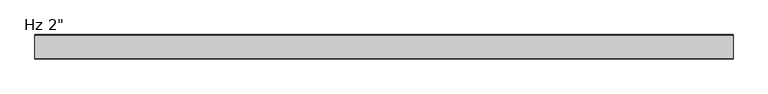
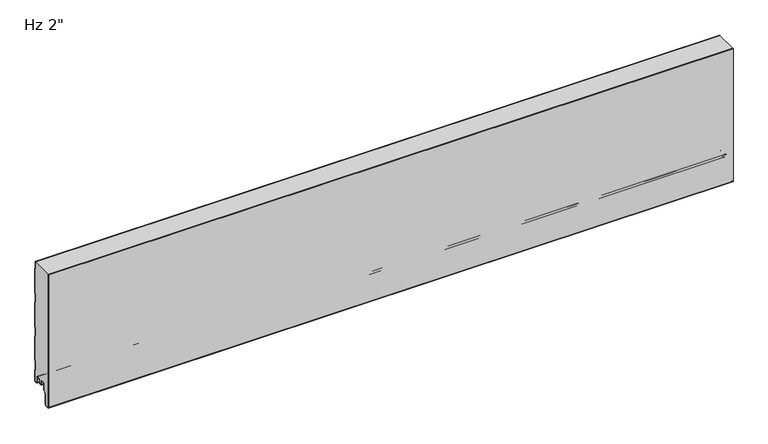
"""IFC4 building model written with IfcOpenShell, lengths in millimetres: plate geometry."""

from ifc_helpers import new_model, si_unit, point, frame, frame_2d, origin, place, context, project, spatial, polyline, circle_curve, trimmed, segment, composite_curve, outline, extrude, source, transform, mapped, element, save
from ifc_brep_helpers import plane_surface, cylinder_surface, revolved_surface, advanced_brep


def plate_f772c91a(model_context):
    return source(origin(), model_context, "Body", "SolidModel", [
        advanced_brep(
        [(-730.0, -22.470875, 1.0316999), (-730.0, -21.3014003, 2.2328239), (-730.0, -21.3014003, 5.9912173), (-730.0, -22.6998791, 5.9912173), (-730.0, -22.6998791, 8.6903283), (-730.0, -26.0498744, 12.0403236), (-730.0, -30.4498656, 12.0403236), (-730.0, -33.7998609, 8.6903283), (-730.0, -33.7998609, -3.1205608), (-730.0, -34.2977778, -4.3226385), (-730.0, -39.7998489, -9.8247096), (-730.0, -39.7998489, -31.9198392), (-730.0, -42.0184509, -34.5765709), (-730.0, -47.0002718, -35.0125699), (-730.0, -49.7945967, -32.4521176), (-730.0, -49.8, 266.4), (-730.0, -2.206575, 266.4), (-730.0, -2.206575, 251.0192115), (-730.0, -1.0063443, 249.6335785), (-730.0, -1.0063443, 195.5801631), (-730.0, -2.206575, 194.1945302), (-730.0, -2.206575, 174.8193639), (-730.0, -1.0063443, 173.4337309), (-730.0, -1.0063443, 119.3803155), (-730.0, -2.206575, 117.9946826), (-730.0, -2.206575, 98.6195163), (-730.0, -1.0063443, 97.2338833), (-730.0, -1.0063443, 43.1804679), (-730.0, -2.206575, 41.794835), (-730.0, -2.206575, 22.4196687), (-730.0, -1.0063359, 21.034026), (-730.0, -1.0063359, -3.4662506), (-730.0, -5.2378832, -3.4662506), (-730.0, -7.0078774, -1.6962564), (-730.0, -7.0078774, 8.7237222), (-730.0, -10.3078733, 12.023718), (-730.0, -14.7078645, 12.023718), (-730.0, -18.0078602, 8.7237223), (-730.0, -18.0078602, 6.0315125), (-730.0, -19.0078547, 6.0315125), (-730.0, -19.0078547, 2.0313089), (-730.0, -18.0078635, 1.0313117), (-730.0, -19.0391752, 0.0), (-730.0, -21.4391751, 0.0), (730.0, -22.470875, 1.0316999), (730.0, -21.4391751, 0.0), (730.0, -19.0391752, 0.0), (730.0, -18.0078635, 1.0313117), (730.0, -19.0078547, 2.0313089), (730.0, -19.0078547, 6.0315125), (730.0, -18.0078602, 6.0315125), (730.0, -18.0078602, 8.7237223), (730.0, -14.7078645, 12.023718), (730.0, -10.3078733, 12.023718), (730.0, -7.0078774, 8.7237222), (730.0, -7.0078774, -1.6962564), (730.0, -5.2378832, -3.4662506), (730.0, -1.0063359, -3.4662506), (730.0, -1.0063359, 21.034026), (730.0, -2.206575, 22.4196687), (730.0, -2.206575, 41.794835), (730.0, -1.0063443, 43.1804679), (730.0, -1.0063443, 97.2338833), (730.0, -2.206575, 98.6195163), (730.0, -2.206575, 117.9946826), (730.0, -1.0063443, 119.3803155), (730.0, -1.0063443, 173.4337309), (730.0, -2.206575, 174.8193639), (730.0, -2.206575, 194.1945302), (730.0, -1.0063443, 195.5801631), (730.0, -1.0063443, 249.6335785), (730.0, -2.206575, 251.0192115), (730.0, -2.206575, 266.4), (730.0, -49.8, 266.4), (730.0, -49.8, -32.4521176), (730.0, -47.0002718, -35.0125699), (730.0, -42.0184509, -34.5765709), (730.0, -39.7998489, -31.9198392), (730.0, -39.7998489, -9.8247096), (730.0, -34.2977778, -4.3226385), (730.0, -33.7998609, -3.1205608), (730.0, -33.7998609, 8.6903283), (730.0, -30.4498656, 12.0403236), (730.0, -26.0498744, 12.0403236), (730.0, -22.6998791, 8.6903283), (730.0, -22.6998791, 5.9912173), (730.0, -21.3014003, 5.9912173), (730.0, -21.3014003, 2.2328239)],
        [
            (0, 1, circle_curve(frame((-730.0, -22.5013969, 2.2313092), z_axis=(1.0, 0.0, 0.0), x_axis=(0.0, 0.0, -1.0)), 1.1999976)),
            (1, 2),
            (2, 3),
            (3, 4),
            (4, 5, circle_curve(frame((-730.0, -26.0498744, 8.6903283), z_axis=(1.0, 0.0, 0.0), x_axis=(0.0, 0.0, -1.0)), 3.3499953)),
            (5, 6),
            (6, 7, circle_curve(frame((-730.0, -30.4498656, 8.6903283), z_axis=(1.0, 0.0, 0.0), x_axis=(0.0, 0.0, -1.0)), 3.3499953)),
            (7, 8),
            (8, 9, circle_curve(frame((-730.0, -35.4998555, -3.1205608), z_axis=(-1.0, 0.0, 0.0), x_axis=(0.0, 0.0, -1.0)), 1.6999946)),
            (9, 10),
            (10, 11),
            (11, 12, circle_curve(frame((-730.0, -42.4998415, -31.9198392), z_axis=(-1.0, 0.0, 0.0), x_axis=(0.0, 0.0, -1.0)), 2.6999926)),
            (12, 13),
            (13, 14, circle_curve(frame((-730.0, -47.2243575, -32.4521176), z_axis=(-1.0, 0.0, 0.0), x_axis=(0.0, 0.0, -1.0)), 2.5702393)),
            (14, 15),
            (15, 16),
            (16, 17),
            (17, 18),
            (18, 19),
            (19, 20),
            (20, 21),
            (21, 22),
            (22, 23),
            (23, 24),
            (24, 25),
            (25, 26),
            (26, 27),
            (27, 28),
            (28, 29),
            (29, 30),
            (30, 31),
            (31, 32),
            (32, 33, circle_curve(frame((-730.0, -5.2378832, -1.6962564), z_axis=(-1.0, 0.0, 0.0), x_axis=(0.0, 0.0, -1.0)), 1.7699942)),
            (33, 34),
            (34, 35, circle_curve(frame((-730.0, -10.3078733, 8.7237222), z_axis=(1.0, 0.0, 0.0), x_axis=(0.0, 0.0, -1.0)), 3.2999959)),
            (35, 36),
            (36, 37, circle_curve(frame((-730.0, -14.7078645, 8.7237223), z_axis=(1.0, 0.0, 0.0), x_axis=(0.0, 0.0, -1.0)), 3.2999957)),
            (37, 38),
            (38, 39),
            (39, 40),
            (40, 41, circle_curve(frame((-730.0, -18.0078576, 2.0313089), z_axis=(1.0, 0.0, 0.0), x_axis=(0.0, 0.0, -1.0)), 0.9999972)),
            (41, 42),
            (42, 43),
            (43, 0),
            (44, 45),
            (45, 46),
            (46, 47),
            (47, 48, circle_curve(frame((730.0, -18.0078576, 2.0313089), z_axis=(-1.0, 0.0, 0.0), x_axis=(0.0, 0.0, -1.0)), 0.9999972)),
            (48, 49),
            (49, 50),
            (50, 51),
            (51, 52, circle_curve(frame((730.0, -14.7078645, 8.7237223), z_axis=(-1.0, 0.0, 0.0), x_axis=(0.0, 0.0, -1.0)), 3.2999957)),
            (52, 53),
            (53, 54, circle_curve(frame((730.0, -10.3078733, 8.7237222), z_axis=(-1.0, 0.0, 0.0), x_axis=(0.0, 0.0, -1.0)), 3.2999959)),
            (54, 55),
            (55, 56, circle_curve(frame((730.0, -5.2378832, -1.6962564), z_axis=(1.0, 0.0, 0.0), x_axis=(0.0, 0.0, -1.0)), 1.7699942)),
            (56, 57),
            (57, 58),
            (58, 59),
            (59, 60),
            (60, 61),
            (61, 62),
            (62, 63),
            (63, 64),
            (64, 65),
            (65, 66),
            (66, 67),
            (67, 68),
            (68, 69),
            (69, 70),
            (70, 71),
            (71, 72),
            (72, 73),
            (73, 74),
            (74, 75, circle_curve(frame((730.0, -47.2243575, -32.4521176), z_axis=(1.0, 0.0, 0.0), x_axis=(0.0, 0.0, -1.0)), 2.5702393)),
            (75, 76),
            (76, 77, circle_curve(frame((730.0, -42.4998415, -31.9198392), z_axis=(1.0, 0.0, 0.0), x_axis=(0.0, 0.0, -1.0)), 2.6999926)),
            (77, 78),
            (78, 79),
            (79, 80, circle_curve(frame((730.0, -35.4998555, -3.1205608), z_axis=(1.0, 0.0, 0.0), x_axis=(0.0, 0.0, -1.0)), 1.6999946)),
            (80, 81),
            (81, 82, circle_curve(frame((730.0, -30.4498656, 8.6903283), z_axis=(-1.0, 0.0, 0.0), x_axis=(0.0, 0.0, -1.0)), 3.3499953)),
            (82, 83),
            (83, 84, circle_curve(frame((730.0, -26.0498744, 8.6903283), z_axis=(-1.0, 0.0, 0.0), x_axis=(0.0, 0.0, -1.0)), 3.3499953)),
            (84, 85),
            (85, 86),
            (86, 87),
            (87, 44, circle_curve(frame((730.0, -22.5013969, 2.2313092), z_axis=(-1.0, 0.0, 0.0), x_axis=(0.0, 0.0, -1.0)), 1.1999976)),
            (43, 45),
            (44, 0),
            (42, 46),
            (41, 47),
            (40, 48),
            (39, 49),
            (38, 50),
            (37, 51),
            (36, 52),
            (35, 53),
            (34, 54),
            (33, 55),
            (32, 56),
            (31, 57),
            (73, 15),
            (14, 74),
            (13, 75),
            (12, 76),
            (11, 77),
            (10, 78),
            (9, 79),
            (8, 80),
            (7, 81),
            (6, 82),
            (5, 83),
            (4, 84),
            (3, 85),
            (2, 86),
            (1, 87),
            (72, 16),
            (30, 58),
            (29, 59),
            (28, 60),
            (27, 61),
            (26, 62),
            (25, 63),
            (24, 64),
            (23, 65),
            (22, 66),
            (21, 67),
            (20, 68),
            (19, 69),
            (18, 70),
            (17, 71),
        ],
        [
            plane_surface(frame((-730.0, -49.8, 533.4), z_axis=(-1.0, 0.0, 0.0), x_axis=(0.0, -1.0, 0.0))),
            plane_surface(frame((730.0, -49.8, 533.4), z_axis=(1.0, 0.0, 0.0), x_axis=(0.0, -1.0, 0.0))),
            plane_surface(frame((-730.0, -22.470875, 1.0316999), z_axis=(0.0, -0.7071067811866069, -0.7071067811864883), x_axis=(1.0, 0.0, 0.0))),
            plane_surface(frame((-730.0, -21.4391751, 0.0), z_axis=(0.0, 0.0, -1.0), x_axis=(1.0, 0.0, 0.0))),
            plane_surface(frame((-730.0, -19.0391752, 0.0), z_axis=(0.0, 0.7071067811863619, -0.7071067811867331), x_axis=(1.0, 0.0, 0.0))),
            revolved_surface(polyline([(730.0, -18.0078576, 1.0313116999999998), (-730.0, -18.0078576, 1.0313116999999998)]), (-730.0, -18.0078576, 2.0313089), (1.0, 0.0, 0.0)),
            plane_surface(frame((-730.0, -19.0078547, 2.0313089), z_axis=(0.0, 1.0, 0.0), x_axis=(1.0, 0.0, 0.0))),
            plane_surface(frame((-730.0, -19.0078547, 6.0315125), z_axis=(0.0, 0.0, -1.0), x_axis=(1.0, 0.0, 0.0))),
            plane_surface(frame((-730.0, -18.0078602, 6.0315125), z_axis=(0.0, 1.0, 0.0), x_axis=(1.0, 0.0, 0.0))),
            revolved_surface(polyline([(730.0, -14.7078645, 5.4237266), (-730.0, -14.7078645, 5.4237266)]), (-730.0, -14.7078645, 8.7237223), (1.0, 0.0, 0.0)),
            plane_surface(frame((-730.0, -14.7078645, 12.023718), z_axis=(0.0, 0.0, -1.0), x_axis=(1.0, 0.0, 0.0))),
            revolved_surface(polyline([(730.0, -10.3078733, 5.423726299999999), (-730.0, -10.3078733, 5.423726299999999)]), (-730.0, -10.3078733, 8.7237222), (1.0, 0.0, 0.0)),
            plane_surface(frame((-730.0, -7.0078774, 8.7237222), z_axis=(0.0, -1.0, 0.0), x_axis=(1.0, 0.0, 0.0))),
            cylinder_surface(frame((-730.0, -5.2378832, -1.6962564), z_axis=(-1.0, 0.0, 0.0), x_axis=(0.0, 0.0, -1.0)), 1.7699942),
            plane_surface(frame((-730.0, -5.2378832, -3.4662506), z_axis=(0.0, 0.0, -1.0), x_axis=(1.0, 0.0, 0.0))),
            plane_surface(frame((-730.0, -49.8, 1024.665622), z_axis=(0.0, -1.0, 0.0), x_axis=(1.0, 0.0, 0.0))),
            cylinder_surface(frame((-730.0, -47.2243575, -32.4521176), z_axis=(-1.0, 0.0, 0.0), x_axis=(0.0, 0.0, -1.0)), 2.5702393),
            plane_surface(frame((-730.0, -47.0002718, -35.0125699), z_axis=(0.0, 0.08718474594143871, -0.9961921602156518), x_axis=(1.0, 0.0, 0.0))),
            cylinder_surface(frame((-730.0, -42.4998415, -31.9198392), z_axis=(-1.0, 0.0, 0.0), x_axis=(0.0, 0.0, -1.0)), 2.6999926),
            plane_surface(frame((-730.0, -39.7998489, -31.9198392), z_axis=(0.0, 1.0, 0.0), x_axis=(1.0, 0.0, 0.0))),
            plane_surface(frame((-730.0, -39.7998489, -9.8247096), z_axis=(0.0, 0.7071067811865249, -0.7071067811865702), x_axis=(1.0, 0.0, 0.0))),
            cylinder_surface(frame((-730.0, -35.4998555, -3.1205608), z_axis=(-1.0, 0.0, 0.0), x_axis=(0.0, 0.0, -1.0)), 1.6999946),
            plane_surface(frame((-730.0, -33.7998609, -3.1205608), z_axis=(0.0, 1.0, 0.0), x_axis=(1.0, 0.0, 0.0))),
            revolved_surface(polyline([(730.0, -30.4498656, 5.340332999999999), (-730.0, -30.4498656, 5.340332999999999)]), (-730.0, -30.4498656, 8.6903283), (1.0, 0.0, 0.0)),
            plane_surface(frame((-730.0, -30.4498656, 12.0403236), z_axis=(0.0, 0.0, -1.0), x_axis=(1.0, 0.0, 0.0))),
            revolved_surface(polyline([(730.0, -26.0498744, 5.340332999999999), (-730.0, -26.0498744, 5.340332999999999)]), (-730.0, -26.0498744, 8.6903283), (1.0, 0.0, 0.0)),
            plane_surface(frame((-730.0, -22.6998791, 8.6903283), z_axis=(0.0, -1.0, 0.0), x_axis=(1.0, 0.0, 0.0))),
            plane_surface(frame((-730.0, -22.6998791, 5.9912173), z_axis=(0.0, 0.0, -1.0), x_axis=(1.0, 0.0, 0.0))),
            plane_surface(frame((-730.0, -21.3014003, 5.9912173), z_axis=(0.0, -1.0, 0.0), x_axis=(1.0, 0.0, 0.0))),
            revolved_surface(polyline([(730.0, -22.5013969, 1.0313116), (-730.0, -22.5013969, 1.0313116)]), (-730.0, -22.5013969, 2.2313092), (1.0, 0.0, 0.0)),
            plane_surface(frame((730.0, 10.0, 266.4), z_axis=(0.0, 0.0, 1.0), x_axis=(-1.0, 0.0, 0.0))),
            plane_surface(frame((-730.0, -1.0063359, -3.4662506), z_axis=(0.0, 1.0, 0.0), x_axis=(1.0, 0.0, 0.0))),
            plane_surface(frame((-730.0, -1.0063359, 21.034026), z_axis=(0.0, 0.7558648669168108, 0.6547276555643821), x_axis=(1.0, 0.0, 0.0))),
            plane_surface(frame((-730.0, -2.206575, 22.4196687), z_axis=(0.0, 1.0, 0.0), x_axis=(1.0, 0.0, 0.0))),
            plane_surface(frame((-730.0, -2.206575, 41.794835), z_axis=(0.0, 0.7558648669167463, -0.6547276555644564), x_axis=(1.0, 0.0, 0.0))),
            plane_surface(frame((-730.0, -1.0063443, 43.1804679), z_axis=(0.0, 1.0, 0.0), x_axis=(1.0, 0.0, 0.0))),
            plane_surface(frame((-730.0, -1.0063443, 97.2338833), z_axis=(0.0, 0.7558648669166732, 0.6547276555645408), x_axis=(1.0, 0.0, 0.0))),
            plane_surface(frame((-730.0, -2.206575, 98.6195163), z_axis=(0.0, 1.0, 0.0), x_axis=(1.0, 0.0, 0.0))),
            plane_surface(frame((-730.0, -2.206575, 117.9946826), z_axis=(0.0, 0.7558648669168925, -0.6547276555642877), x_axis=(1.0, 0.0, 0.0))),
            plane_surface(frame((-730.0, -1.0063443, 119.3803155), z_axis=(0.0, 1.0, 0.0), x_axis=(1.0, 0.0, 0.0))),
            plane_surface(frame((-730.0, -1.0063443, 173.4337309), z_axis=(0.0, 0.7558648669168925, 0.6547276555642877), x_axis=(1.0, 0.0, 0.0))),
            plane_surface(frame((-730.0, -2.206575, 174.8193639), z_axis=(0.0, 1.0, 0.0), x_axis=(1.0, 0.0, 0.0))),
            plane_surface(frame((-730.0, -2.206575, 194.1945302), z_axis=(0.0, 0.7558648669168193, -0.6547276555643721), x_axis=(1.0, 0.0, 0.0))),
            plane_surface(frame((-730.0, -1.0063443, 195.5801631), z_axis=(0.0, 1.0, 0.0), x_axis=(1.0, 0.0, 0.0))),
            plane_surface(frame((-730.0, -1.0063443, 249.6335785), z_axis=(0.0, 0.7558648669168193, 0.6547276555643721), x_axis=(1.0, 0.0, 0.0))),
            plane_surface(frame((-730.0, -2.206575, 251.0192115), z_axis=(0.0, 1.0, 0.0), x_axis=(1.0, 0.0, 0.0))),
        ],
        [
            (0, [[1, 2, 3, 4, 5, 6, 7, 8, 9, 10, 11, 12, 13, 14, 15, 16, 17, 18, 19, 20, 21, 22, 23, 24, 25, 26, 27, 28, 29, 30, 31, 32, 33, 34, 35, 36, 37, 38, 39, 40, 41, 42, 43, 44]]),
            (1, [[45, 46, 47, 48, 49, 50, 51, 52, 53, 54, 55, 56, 57, 58, 59, 60, 61, 62, 63, 64, 65, 66, 67, 68, 69, 70, 71, 72, 73, 74, 75, 76, 77, 78, 79, 80, 81, 82, 83, 84, 85, 86, 87, 88]]),
            (2, [[89, -45, 90, -44]]),
            (3, [[91, -46, -89, -43]]),
            (4, [[92, -47, -91, -42]]),
            (5, [[93, -48, -92, -41]]),
            (6, [[94, -49, -93, -40]]),
            (7, [[95, -50, -94, -39]]),
            (8, [[96, -51, -95, -38]]),
            (9, [[97, -52, -96, -37]]),
            (10, [[98, -53, -97, -36]]),
            (11, [[99, -54, -98, -35]]),
            (12, [[100, -55, -99, -34]]),
            (13, [[101, -56, -100, -33]]),
            (14, [[102, -57, -101, -32]]),
            (15, [[-74, 103, -15, 104]]),
            (16, [[105, -75, -104, -14]]),
            (17, [[106, -76, -105, -13]]),
            (18, [[107, -77, -106, -12]]),
            (19, [[108, -78, -107, -11]]),
            (20, [[109, -79, -108, -10]]),
            (21, [[110, -80, -109, -9]]),
            (22, [[111, -81, -110, -8]]),
            (23, [[112, -82, -111, -7]]),
            (24, [[113, -83, -112, -6]]),
            (25, [[114, -84, -113, -5]]),
            (26, [[115, -85, -114, -4]]),
            (27, [[116, -86, -115, -3]]),
            (28, [[117, -87, -116, -2]]),
            (29, [[-90, -88, -117, -1]]),
            (30, [[-103, -73, 118, -16]]),
            (31, [[119, -58, -102, -31]]),
            (32, [[120, -59, -119, -30]]),
            (33, [[121, -60, -120, -29]]),
            (34, [[122, -61, -121, -28]]),
            (35, [[123, -62, -122, -27]]),
            (36, [[124, -63, -123, -26]]),
            (37, [[125, -64, -124, -25]]),
            (38, [[126, -65, -125, -24]]),
            (39, [[127, -66, -126, -23]]),
            (40, [[128, -67, -127, -22]]),
            (41, [[129, -68, -128, -21]]),
            (42, [[130, -69, -129, -20]]),
            (43, [[131, -70, -130, -19]]),
            (44, [[132, -71, -131, -18]]),
            (45, [[-17, -118, -72, -132]]),
        ],
    ),
        advanced_brep(
        [(-730.0, -17.0015159, 2.0313088), (-730.0, -18.0015191, 1.0313116), (-730.0, -19.0015105, 2.0313088), (-730.0, -19.0015105, 6.0315125), (-730.0, -18.0015159, 6.0315125), (-730.0, -18.0015159, 8.7237223), (-730.0, -14.7015202, 12.023718), (-730.0, -10.301529, 12.023718), (-730.0, -7.0015335, 8.7237225), (-730.0, -7.0015335, -1.6962564), (-730.0, -5.2315393, -3.4662506), (-730.0, -0.9999916, -3.4662506), (-730.0, -0.9999916, 21.034026), (-730.0, -2.2002307, 22.4196686), (-730.0, -2.2002307, 41.7948349), (-730.0, -1.0, 43.1804679), (-730.0, -1.0, 97.2338833), (-730.0, -2.2002307, 98.6195162), (-730.0, -2.2002307, 117.9946825), (-730.0, -1.0, 119.3803155), (-730.0, -1.0, 173.4337309), (-730.0, -2.2002307, 174.8193638), (-730.0, -2.2002307, 194.1945301), (-730.0, -1.0, 195.5801631), (-730.0, -1.0, 249.6335785), (-730.0, -2.2002307, 251.0192114), (-730.0, -2.2002307, 266.4), (-730.0, -1.2002307, 266.4), (-730.0, -1.2002307, 251.3920919), (-730.0, -0.3417885, 250.4010442), (-730.0, 0.0, 249.4844273), (-730.0, 0.0, 195.7293142), (-730.0, -0.3417885, 194.8126973), (-730.0, -1.2002307, 193.8216497), (-730.0, -1.2002307, 175.1922443), (-730.0, -0.3417885, 174.2011966), (-730.0, 0.0, 173.2845797), (-730.0, 0.0, 119.5294666), (-730.0, -0.3417885, 118.6128497), (-730.0, -1.2002307, 117.6218021), (-730.0, -1.2002307, 98.9923967), (-730.0, -0.3417885, 98.001349), (-730.0, 0.0, 97.0847321), (-730.0, 0.0, 43.329619), (-730.0, -0.3417885, 42.4130021), (-730.0, -1.2002307, 41.4219545), (-730.0, -1.2002307, 22.7925491), (-730.0, -0.3417885, 21.8015014), (-730.0, 0.0, 20.8847931), (-730.0, 8.4e-06, -3.0662545), (-730.0, -1.3999878, -4.4662506), (-730.0, -5.2315393, -4.4662506), (-730.0, -8.0015335, -1.6962564), (-730.0, -8.0015335, 8.7237225), (-730.0, -10.301529, 11.023718), (-730.0, -14.7015202, 11.023718), (-730.0, -17.0015159, 8.7237223), (730.0, -17.0015159, 2.0313088), (730.0, -17.0015159, 8.7237223), (730.0, -14.7015202, 11.023718), (730.0, -10.301529, 11.023718), (730.0, -8.0015335, 8.7237225), (730.0, -8.0015335, -1.6962564), (730.0, -5.2315393, -4.4662506), (730.0, -1.3999878, -4.4662506), (730.0, 8.4e-06, -3.0662545), (730.0, 8.4e-06, 20.8848845), (730.0, -0.3417885, 21.8015014), (730.0, -1.2002307, 22.7925491), (730.0, -1.2002307, 41.4219545), (730.0, -0.3417885, 42.4130021), (730.0, 0.0, 43.329619), (730.0, 0.0, 97.0847321), (730.0, -0.3417885, 98.001349), (730.0, -1.2002307, 98.9923967), (730.0, -1.2002307, 117.6218021), (730.0, -0.3417885, 118.6128497), (730.0, 0.0, 119.5294666), (730.0, 0.0, 173.2845797), (730.0, -0.3417885, 174.2011966), (730.0, -1.2002307, 175.1922443), (730.0, -1.2002307, 193.8216497), (730.0, -0.3417885, 194.8126973), (730.0, 0.0, 195.7293142), (730.0, 0.0, 249.4844273), (730.0, -0.3417885, 250.4010442), (730.0, -1.2002307, 251.3920919), (730.0, -1.2002307, 266.4), (730.0, -2.2002307, 266.4), (730.0, -2.2002307, 251.0192114), (730.0, -1.0, 249.6335785), (730.0, -1.0, 195.5801631), (730.0, -2.2002307, 194.1945301), (730.0, -2.2002307, 174.8193638), (730.0, -1.0, 173.4337309), (730.0, -1.0, 119.3803155), (730.0, -2.2002307, 117.9946825), (730.0, -2.2002307, 98.6195162), (730.0, -1.0, 97.2338833), (730.0, -1.0, 43.1804679), (730.0, -2.2002307, 41.7948349), (730.0, -2.2002307, 22.4196686), (730.0, -0.9999916, 21.034026), (730.0, -0.9999916, -3.4662506), (730.0, -5.2315393, -3.4662506), (730.0, -7.0015335, -1.6962564), (730.0, -7.0015335, 8.7237225), (730.0, -10.301529, 12.023718), (730.0, -14.7015202, 12.023718), (730.0, -18.0015159, 8.7237223), (730.0, -18.0015159, 6.0315125), (730.0, -19.0015105, 6.0315125), (730.0, -19.0015105, 2.0313088), (730.0, -18.0015192, 1.0313116)],
        [
            (0, 1, circle_curve(frame((-730.0, -18.0015132, 2.0313088), z_axis=(-1.0, 0.0, 0.0), x_axis=(0.0, 0.0, 1.0)), 0.9999973)),
            (1, 2, circle_curve(frame((-730.0, -18.0015133, 2.0313088), z_axis=(-1.0, 0.0, 0.0), x_axis=(0.0, 0.0, 1.0)), 0.9999972)),
            (2, 3),
            (3, 4),
            (4, 5),
            (5, 6, circle_curve(frame((-730.0, -14.7015202, 8.7237223), z_axis=(-1.0, 0.0, 0.0), x_axis=(0.0, 0.0, 1.0)), 3.2999957)),
            (6, 7),
            (7, 8, circle_curve(frame((-730.0, -10.301529, 8.7237225), z_axis=(-1.0, 0.0, 0.0), x_axis=(0.0, 0.0, 1.0)), 3.2999955)),
            (8, 9),
            (9, 10, circle_curve(frame((-730.0, -5.2315393, -1.6962564), z_axis=(1.0, 0.0, 0.0), x_axis=(0.0, 0.0, 1.0)), 1.7699942)),
            (10, 11),
            (11, 12),
            (12, 13),
            (13, 14),
            (14, 15),
            (15, 16),
            (16, 17),
            (17, 18),
            (18, 19),
            (19, 20),
            (20, 21),
            (21, 22),
            (22, 23),
            (23, 24),
            (24, 25),
            (25, 26),
            (26, 27),
            (27, 28),
            (28, 29),
            (29, 30, circle_curve(frame((-730.0, -1.3999972, 249.4844273), z_axis=(-1.0, 0.0, 0.0), x_axis=(0.0, 0.0, 1.0)), 1.3999972)),
            (30, 31),
            (31, 32, circle_curve(frame((-730.0, -1.3999972, 195.7293142), z_axis=(-1.0, 0.0, 0.0), x_axis=(0.0, 0.0, 1.0)), 1.3999972)),
            (32, 33),
            (33, 34),
            (34, 35),
            (35, 36, circle_curve(frame((-730.0, -1.3999972, 173.2845797), z_axis=(-1.0, 0.0, 0.0), x_axis=(0.0, 0.0, 1.0)), 1.3999972)),
            (36, 37),
            (37, 38, circle_curve(frame((-730.0, -1.3999972, 119.5294666), z_axis=(-1.0, 0.0, 0.0), x_axis=(0.0, 0.0, 1.0)), 1.3999972)),
            (38, 39),
            (39, 40),
            (40, 41),
            (41, 42, circle_curve(frame((-730.0, -1.3999972, 97.0847321), z_axis=(-1.0, 0.0, 0.0), x_axis=(0.0, 0.0, 1.0)), 1.3999972)),
            (42, 43),
            (43, 44, circle_curve(frame((-730.0, -1.3999972, 43.329619), z_axis=(-1.0, 0.0, 0.0), x_axis=(0.0, 0.0, 1.0)), 1.3999972)),
            (44, 45),
            (45, 46),
            (46, 47),
            (47, 48, circle_curve(frame((-730.0, -1.3999972, 20.8848845), z_axis=(-1.0, 0.0, 0.0), x_axis=(0.0, 0.0, 1.0)), 1.3999972)),
            (48, 49),
            (49, 50, circle_curve(frame((-730.0, -1.3999878, -3.0662545), z_axis=(-1.0, 0.0, 0.0), x_axis=(0.0, 0.0, 1.0)), 1.3999962)),
            (50, 51),
            (51, 52, circle_curve(frame((-730.0, -5.2315393, -1.6962564), z_axis=(-1.0, 0.0, 0.0), x_axis=(0.0, 0.0, 1.0)), 2.7699942)),
            (52, 53),
            (53, 54, circle_curve(frame((-730.0, -10.301529, 8.7237225), z_axis=(1.0, 0.0, 0.0), x_axis=(0.0, 0.0, 1.0)), 2.2999955)),
            (54, 55),
            (55, 56, circle_curve(frame((-730.0, -14.7015202, 8.7237223), z_axis=(1.0, 0.0, 0.0), x_axis=(0.0, 0.0, 1.0)), 2.2999957)),
            (56, 0),
            (57, 58),
            (58, 59, circle_curve(frame((730.0, -14.7015202, 8.7237223), z_axis=(-1.0, 0.0, 0.0), x_axis=(0.0, 0.0, 1.0)), 2.2999957)),
            (59, 60),
            (60, 61, circle_curve(frame((730.0, -10.301529, 8.7237225), z_axis=(-1.0, 0.0, 0.0), x_axis=(0.0, 0.0, 1.0)), 2.2999955)),
            (61, 62),
            (62, 63, circle_curve(frame((730.0, -5.2315393, -1.6962564), z_axis=(1.0, 0.0, 0.0), x_axis=(0.0, 0.0, 1.0)), 2.7699942)),
            (63, 64),
            (64, 65, circle_curve(frame((730.0, -1.3999878, -3.0662545), z_axis=(1.0, 0.0, 0.0), x_axis=(0.0, 0.0, 1.0)), 1.3999962)),
            (65, 66),
            (66, 67, circle_curve(frame((730.0, -1.3999972, 20.8848845), z_axis=(1.0, 0.0, 0.0), x_axis=(0.0, 0.0, 1.0)), 1.3999972)),
            (67, 68),
            (68, 69),
            (69, 70),
            (70, 71, circle_curve(frame((730.0, -1.3999972, 43.329619), z_axis=(1.0, 0.0, 0.0), x_axis=(0.0, 0.0, 1.0)), 1.3999972)),
            (71, 72),
            (72, 73, circle_curve(frame((730.0, -1.3999972, 97.0847321), z_axis=(1.0, 0.0, 0.0), x_axis=(0.0, 0.0, 1.0)), 1.3999972)),
            (73, 74),
            (74, 75),
            (75, 76),
            (76, 77, circle_curve(frame((730.0, -1.3999972, 119.5294666), z_axis=(1.0, 0.0, 0.0), x_axis=(0.0, 0.0, 1.0)), 1.3999972)),
            (77, 78),
            (78, 79, circle_curve(frame((730.0, -1.3999972, 173.2845797), z_axis=(1.0, 0.0, 0.0), x_axis=(0.0, 0.0, 1.0)), 1.3999972)),
            (79, 80),
            (80, 81),
            (81, 82),
            (82, 83, circle_curve(frame((730.0, -1.3999972, 195.7293142), z_axis=(1.0, 0.0, 0.0), x_axis=(0.0, 0.0, 1.0)), 1.3999972)),
            (83, 84),
            (84, 85, circle_curve(frame((730.0, -1.3999972, 249.4844273), z_axis=(1.0, 0.0, 0.0), x_axis=(0.0, 0.0, 1.0)), 1.3999972)),
            (85, 86),
            (86, 87),
            (87, 88),
            (88, 89),
            (89, 90),
            (90, 91),
            (91, 92),
            (92, 93),
            (93, 94),
            (94, 95),
            (95, 96),
            (96, 97),
            (97, 98),
            (98, 99),
            (99, 100),
            (100, 101),
            (101, 102),
            (102, 103),
            (103, 104),
            (104, 105, circle_curve(frame((730.0, -5.2315393, -1.6962564), z_axis=(-1.0, 0.0, 0.0), x_axis=(0.0, 0.0, 1.0)), 1.7699942)),
            (105, 106),
            (106, 107, circle_curve(frame((730.0, -10.301529, 8.7237225), z_axis=(1.0, 0.0, 0.0), x_axis=(0.0, 0.0, 1.0)), 3.2999955)),
            (107, 108),
            (108, 109, circle_curve(frame((730.0, -14.7015202, 8.7237223), z_axis=(1.0, 0.0, 0.0), x_axis=(0.0, 0.0, 1.0)), 3.2999957)),
            (109, 110),
            (110, 111),
            (111, 112),
            (112, 113, circle_curve(frame((730.0, -18.0015133, 2.0313088), z_axis=(1.0, 0.0, 0.0), x_axis=(0.0, 0.0, 1.0)), 0.9999972)),
            (113, 57, circle_curve(frame((730.0, -18.0015132, 2.0313088), z_axis=(1.0, 0.0, 0.0), x_axis=(0.0, 0.0, 1.0)), 0.9999973)),
            (26, 88),
            (87, 27),
            (56, 58),
            (57, 0),
            (55, 59),
            (54, 60),
            (53, 61),
            (52, 62),
            (51, 63),
            (50, 64),
            (49, 65),
            (48, 66),
            (47, 67),
            (46, 68),
            (45, 69),
            (44, 70),
            (43, 71),
            (42, 72),
            (41, 73),
            (40, 74),
            (39, 75),
            (38, 76),
            (37, 77),
            (36, 78),
            (19, 95),
            (94, 20),
            (18, 96),
            (17, 97),
            (16, 98),
            (15, 99),
            (14, 100),
            (13, 101),
            (12, 102),
            (11, 103),
            (10, 104),
            (9, 105),
            (8, 106),
            (7, 107),
            (6, 108),
            (5, 109),
            (4, 110),
            (3, 111),
            (2, 112),
            (1, 113),
            (35, 79),
            (34, 80),
            (33, 81),
            (32, 82),
            (31, 83),
            (30, 84),
            (29, 85),
            (28, 86),
            (25, 89),
            (24, 90),
            (23, 91),
            (22, 92),
            (21, 93),
        ],
        [
            plane_surface(frame((-730.0, 0.0, 533.4), z_axis=(-1.0, 0.0, 0.0), x_axis=(0.0, 1.0, 0.0))),
            plane_surface(frame((730.0, 0.0, 533.4), z_axis=(1.0, 0.0, 0.0), x_axis=(0.0, 1.0, 0.0))),
            plane_surface(frame((730.0, 10.0, 266.4), z_axis=(0.0, 0.0, 1.0), x_axis=(-1.0, 0.0, 0.0))),
            plane_surface(frame((-730.0, -17.0015159, 2.0313088), z_axis=(0.0, 1.0, 0.0), x_axis=(1.0, 0.0, 0.0))),
            revolved_surface(polyline([(730.0, -14.7015202, 11.023718), (-730.0, -14.7015202, 11.023718)]), (-730.0, -14.7015202, 8.7237223), (1.0, 0.0, 0.0)),
            plane_surface(frame((-730.0, -14.7015202, 11.023718), z_axis=(0.0, 0.0, -1.0), x_axis=(1.0, 0.0, 0.0))),
            revolved_surface(polyline([(730.0, -10.301529, 11.023717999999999), (-730.0, -10.301529, 11.023717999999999)]), (-730.0, -10.301529, 8.7237225), (1.0, 0.0, 0.0)),
            plane_surface(frame((-730.0, -8.0015335, 8.7237225), z_axis=(0.0, -1.0, 0.0), x_axis=(1.0, 0.0, 0.0))),
            cylinder_surface(frame((-730.0, -5.2315393, -1.6962564), z_axis=(-1.0, 0.0, 0.0), x_axis=(0.0, 0.0, 1.0)), 2.7699942),
            plane_surface(frame((-730.0, -5.2315393, -4.4662506), z_axis=(0.0, 0.0, -1.0), x_axis=(1.0, 0.0, 0.0))),
            cylinder_surface(frame((-730.0, -1.3999878, -3.0662545), z_axis=(-1.0, 0.0, 0.0), x_axis=(0.0, 0.0, 1.0)), 1.3999962),
            plane_surface(frame((-730.0, 8.4e-06, -3.0662545), z_axis=(0.0, 1.0, 0.0), x_axis=(1.0, 0.0, 0.0))),
            cylinder_surface(frame((-730.0, -1.3999972, 20.8848845), z_axis=(-1.0, 0.0, 0.0), x_axis=(0.0, 0.0, 1.0)), 1.3999972),
            plane_surface(frame((-730.0, -0.3417885, 21.8015014), z_axis=(0.0, 0.755864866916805, 0.6547276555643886), x_axis=(1.0, 0.0, 0.0))),
            plane_surface(frame((-730.0, -1.2002307, 32.1072518), z_axis=(0.0, 1.0, 0.0), x_axis=(1.0, 0.0, 0.0))),
            plane_surface(frame((-730.0, -1.2002307, 41.4219545), z_axis=(0.0, 0.755864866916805, -0.6547276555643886), x_axis=(1.0, 0.0, 0.0))),
            cylinder_surface(frame((-730.0, -1.3999972, 43.329619), z_axis=(-1.0, 0.0, 0.0), x_axis=(0.0, 0.0, 1.0)), 1.3999972),
            plane_surface(frame((-730.0, 0.0, 43.329619), z_axis=(0.0, 1.0, 0.0), x_axis=(1.0, 0.0, 0.0))),
            cylinder_surface(frame((-730.0, -1.3999972, 97.0847321), z_axis=(-1.0, 0.0, 0.0), x_axis=(0.0, 0.0, 1.0)), 1.3999972),
            plane_surface(frame((-730.0, -0.3417885, 98.001349), z_axis=(0.0, 0.755864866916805, 0.6547276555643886), x_axis=(1.0, 0.0, 0.0))),
            plane_surface(frame((-730.0, -1.2002307, 108.3070994), z_axis=(0.0, 1.0, 0.0), x_axis=(1.0, 0.0, 0.0))),
            plane_surface(frame((-730.0, -1.2002307, 117.6218021), z_axis=(0.0, 0.755864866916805, -0.6547276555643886), x_axis=(1.0, 0.0, 0.0))),
            cylinder_surface(frame((-730.0, -1.3999972, 119.5294666), z_axis=(-1.0, 0.0, 0.0), x_axis=(0.0, 0.0, 1.0)), 1.3999972),
            plane_surface(frame((-730.0, 0.0, 119.5294666), z_axis=(0.0, 1.0, 0.0), x_axis=(1.0, 0.0, 0.0))),
            plane_surface(frame((-730.0, -1.0, 173.4337309), z_axis=(0.0, -1.0, 0.0), x_axis=(1.0, 0.0, 0.0))),
            plane_surface(frame((-730.0, -1.0, 119.3803155), z_axis=(0.0, -0.755864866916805, 0.6547276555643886), x_axis=(1.0, 0.0, 0.0))),
            plane_surface(frame((-730.0, -2.2002307, 117.9946825), z_axis=(0.0, -1.0, 0.0), x_axis=(1.0, 0.0, 0.0))),
            plane_surface(frame((-730.0, -2.2002307, 98.6195162), z_axis=(0.0, -0.755864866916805, -0.6547276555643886), x_axis=(1.0, 0.0, 0.0))),
            plane_surface(frame((-730.0, -1.0, 97.2338833), z_axis=(0.0, -1.0, 0.0), x_axis=(1.0, 0.0, 0.0))),
            plane_surface(frame((-730.0, -1.0, 43.1804679), z_axis=(0.0, -0.755864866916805, 0.6547276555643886), x_axis=(1.0, 0.0, 0.0))),
            plane_surface(frame((-730.0, -2.2002307, 41.7948349), z_axis=(0.0, -1.0, 0.0), x_axis=(1.0, 0.0, 0.0))),
            plane_surface(frame((-730.0, -2.2002307, 22.4196686), z_axis=(0.0, -0.755864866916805, -0.6547276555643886), x_axis=(1.0, 0.0, 0.0))),
            plane_surface(frame((-730.0, -0.9999916, 21.034026), z_axis=(0.0, -1.0, 0.0), x_axis=(1.0, 0.0, 0.0))),
            plane_surface(frame((-730.0, -0.9999916, -3.4662506), z_axis=(0.0, 0.0, 1.0), x_axis=(1.0, 0.0, 0.0))),
            revolved_surface(polyline([(730.0, -5.2315393, 0.07373779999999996), (-730.0, -5.2315393, 0.07373779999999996)]), (-730.0, -5.2315393, -1.6962564), (1.0, 0.0, 0.0)),
            plane_surface(frame((-730.0, -7.0015335, -1.6962564), z_axis=(0.0, 1.0, 0.0), x_axis=(1.0, 0.0, 0.0))),
            cylinder_surface(frame((-730.0, -10.301529, 8.7237225), z_axis=(-1.0, 0.0, 0.0), x_axis=(0.0, 0.0, 1.0)), 3.2999955),
            plane_surface(frame((-730.0, -10.301529, 12.023718), z_axis=(0.0, 0.0, 1.0), x_axis=(1.0, 0.0, 0.0))),
            cylinder_surface(frame((-730.0, -14.7015202, 8.7237223), z_axis=(-1.0, 0.0, 0.0), x_axis=(0.0, 0.0, 1.0)), 3.2999957),
            plane_surface(frame((-730.0, -18.0015159, 8.7237223), z_axis=(0.0, -1.0, 0.0), x_axis=(1.0, 0.0, 0.0))),
            plane_surface(frame((-730.0, -18.0015159, 6.0315125), z_axis=(0.0, 0.0, 1.0), x_axis=(1.0, 0.0, 0.0))),
            plane_surface(frame((-730.0, -19.0015105, 6.0315125), z_axis=(0.0, -1.0, 0.0), x_axis=(1.0, 0.0, 0.0))),
            cylinder_surface(frame((-730.0, -18.0015133, 2.0313088), z_axis=(-1.0, 0.0, 0.0), x_axis=(0.0, 0.0, 1.0)), 0.9999972),
            cylinder_surface(frame((-730.0, -18.0015132, 2.0313088), z_axis=(-1.0, 0.0, 0.0), x_axis=(0.0, 0.0, 1.0)), 0.9999973),
            cylinder_surface(frame((-730.0, -1.3999972, 173.2845797), z_axis=(-1.0, 0.0, 0.0), x_axis=(0.0, 0.0, 1.0)), 1.3999972),
            plane_surface(frame((-730.0, -0.3417885, 174.2011966), z_axis=(0.0, 0.755864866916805, 0.6547276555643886), x_axis=(1.0, 0.0, 0.0))),
            plane_surface(frame((-730.0, -1.2002307, 184.506947), z_axis=(0.0, 1.0, 0.0), x_axis=(1.0, 0.0, 0.0))),
            plane_surface(frame((-730.0, -1.2002307, 193.8216497), z_axis=(0.0, 0.755864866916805, -0.6547276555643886), x_axis=(1.0, 0.0, 0.0))),
            cylinder_surface(frame((-730.0, -1.3999972, 195.7293142), z_axis=(-1.0, 0.0, 0.0), x_axis=(0.0, 0.0, 1.0)), 1.3999972),
            plane_surface(frame((-730.0, 0.0, 195.7293142), z_axis=(0.0, 1.0, 0.0), x_axis=(1.0, 0.0, 0.0))),
            cylinder_surface(frame((-730.0, -1.3999972, 249.4844273), z_axis=(-1.0, 0.0, 0.0), x_axis=(0.0, 0.0, 1.0)), 1.3999972),
            plane_surface(frame((-730.0, -0.3417885, 250.4010442), z_axis=(0.0, 0.755864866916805, 0.6547276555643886), x_axis=(1.0, 0.0, 0.0))),
            plane_surface(frame((-730.0, -1.2002307, 260.7067946), z_axis=(0.0, 1.0, 0.0), x_axis=(1.0, 0.0, 0.0))),
            plane_surface(frame((-730.0, -2.2002307, 270.3943777), z_axis=(0.0, -1.0, 0.0), x_axis=(1.0, 0.0, 0.0))),
            plane_surface(frame((-730.0, -2.2002307, 251.0192114), z_axis=(0.0, -0.755864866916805, -0.6547276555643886), x_axis=(1.0, 0.0, 0.0))),
            plane_surface(frame((-730.0, -1.0, 249.6335785), z_axis=(0.0, -1.0, 0.0), x_axis=(1.0, 0.0, 0.0))),
            plane_surface(frame((-730.0, -1.0, 195.5801631), z_axis=(0.0, -0.755864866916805, 0.6547276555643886), x_axis=(1.0, 0.0, 0.0))),
            plane_surface(frame((-730.0, -2.2002307, 194.1945301), z_axis=(0.0, -1.0, 0.0), x_axis=(1.0, 0.0, 0.0))),
            plane_surface(frame((-730.0, -2.2002307, 174.8193638), z_axis=(0.0, -0.755864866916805, -0.6547276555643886), x_axis=(1.0, 0.0, 0.0))),
        ],
        [
            (0, [[1, 2, 3, 4, 5, 6, 7, 8, 9, 10, 11, 12, 13, 14, 15, 16, 17, 18, 19, 20, 21, 22, 23, 24, 25, 26, 27, 28, 29, 30, 31, 32, 33, 34, 35, 36, 37, 38, 39, 40, 41, 42, 43, 44, 45, 46, 47, 48, 49, 50, 51, 52, 53, 54, 55, 56, 57]]),
            (1, [[58, 59, 60, 61, 62, 63, 64, 65, 66, 67, 68, 69, 70, 71, 72, 73, 74, 75, 76, 77, 78, 79, 80, 81, 82, 83, 84, 85, 86, 87, 88, 89, 90, 91, 92, 93, 94, 95, 96, 97, 98, 99, 100, 101, 102, 103, 104, 105, 106, 107, 108, 109, 110, 111, 112, 113, 114]]),
            (2, [[115, -88, 116, -27]]),
            (3, [[117, -58, 118, -57]]),
            (4, [[119, -59, -117, -56]]),
            (5, [[120, -60, -119, -55]]),
            (6, [[121, -61, -120, -54]]),
            (7, [[122, -62, -121, -53]]),
            (8, [[123, -63, -122, -52]]),
            (9, [[124, -64, -123, -51]]),
            (10, [[125, -65, -124, -50]]),
            (11, [[126, -66, -125, -49]]),
            (12, [[127, -67, -126, -48]]),
            (13, [[128, -68, -127, -47]]),
            (14, [[129, -69, -128, -46]]),
            (15, [[130, -70, -129, -45]]),
            (16, [[131, -71, -130, -44]]),
            (17, [[132, -72, -131, -43]]),
            (18, [[133, -73, -132, -42]]),
            (19, [[134, -74, -133, -41]]),
            (20, [[135, -75, -134, -40]]),
            (21, [[136, -76, -135, -39]]),
            (22, [[137, -77, -136, -38]]),
            (23, [[138, -78, -137, -37]]),
            (24, [[139, -95, 140, -20]]),
            (25, [[141, -96, -139, -19]]),
            (26, [[142, -97, -141, -18]]),
            (27, [[143, -98, -142, -17]]),
            (28, [[144, -99, -143, -16]]),
            (29, [[145, -100, -144, -15]]),
            (30, [[146, -101, -145, -14]]),
            (31, [[147, -102, -146, -13]]),
            (32, [[148, -103, -147, -12]]),
            (33, [[149, -104, -148, -11]]),
            (34, [[150, -105, -149, -10]]),
            (35, [[151, -106, -150, -9]]),
            (36, [[152, -107, -151, -8]]),
            (37, [[153, -108, -152, -7]]),
            (38, [[154, -109, -153, -6]]),
            (39, [[155, -110, -154, -5]]),
            (40, [[156, -111, -155, -4]]),
            (41, [[157, -112, -156, -3]]),
            (42, [[158, -113, -157, -2]]),
            (43, [[-118, -114, -158, -1]]),
            (44, [[159, -79, -138, -36]]),
            (45, [[160, -80, -159, -35]]),
            (46, [[161, -81, -160, -34]]),
            (47, [[162, -82, -161, -33]]),
            (48, [[163, -83, -162, -32]]),
            (49, [[164, -84, -163, -31]]),
            (50, [[165, -85, -164, -30]]),
            (51, [[166, -86, -165, -29]]),
            (52, [[-28, -116, -87, -166]]),
            (53, [[-89, -115, -26, 167]]),
            (54, [[168, -90, -167, -25]]),
            (55, [[169, -91, -168, -24]]),
            (56, [[170, -92, -169, -23]]),
            (57, [[171, -93, -170, -22]]),
            (58, [[-140, -94, -171, -21]]),
        ],
    ),
        extrude(outline(composite_curve([segment(trimmed(circle_curve(frame_2d((-47.2297607, -32.4521176)), 3.5702393), [point((-46.9184903, -36.008762))], [point((-50.8, -32.4521176))], False, "CARTESIAN"), True, "CONTINUOUS"), segment(polyline([(-50.8, -32.4521176), (-50.8, 266.4), (-49.7993606, 266.4), (-49.7993606, -32.509446)]), True, "CONTINUOUS"), segment(trimmed(circle_curve(frame_2d((-47.2297607, -32.4521176)), 2.5702393), [point((-49.7993606, -32.509446))], [point((-47.0056751, -35.0125699))], True, "CARTESIAN"), True, "CONTINUOUS"), segment(polyline([(-47.0056751, -35.0125699), (-42.0238542, -34.5765709)]), True, "CONTINUOUS"), segment(trimmed(circle_curve(frame_2d((-42.5052448, -31.9198392)), 2.6999926), [point((-42.0238542, -34.5765709))], [point((-39.8052522, -31.9198392))], True, "CARTESIAN"), True, "CONTINUOUS"), segment(polyline([(-39.8052522, -31.9198392), (-39.8052522, -9.8247096), (-34.3031811, -4.3226385)]), True, "CONTINUOUS"), segment(trimmed(circle_curve(frame_2d((-35.5052588, -3.1205608)), 1.6999946), [point((-34.3031811, -4.3226385))], [point((-33.8052642, -3.1205608))], True, "CARTESIAN"), True, "CONTINUOUS"), segment(polyline([(-33.8052642, -3.1205608), (-33.8052642, 8.6903283)]), True, "CONTINUOUS"), segment(trimmed(circle_curve(frame_2d((-30.4552689, 8.6903283)), 3.3499953), [point((-33.8052642, 8.6903283))], [point((-30.4552689, 12.0403236))], False, "CARTESIAN"), True, "CONTINUOUS"), segment(polyline([(-30.4552689, 12.0403236), (-26.0552777, 12.0403236)]), True, "CONTINUOUS"), segment(trimmed(circle_curve(frame_2d((-26.0552777, 8.6903283)), 3.3499953), [point((-26.0552777, 12.0403236))], [point((-22.7052824, 8.6903283))], False, "CARTESIAN"), True, "CONTINUOUS"), segment(polyline([(-22.7052824, 8.6903283), (-22.7052824, 5.9912173), (-21.3068035, 5.9912173), (-21.3068035, 2.2328239)]), True, "CONTINUOUS"), segment(trimmed(circle_curve(frame_2d((-22.5068002, 2.2313092)), 1.1999976), [point((-21.3068035, 2.2328239))], [point((-22.4762782, 1.0316999))], False, "CARTESIAN"), True, "CONTINUOUS"), segment(trimmed(circle_curve(frame_2d((-22.5068002, 2.2313092)), 1.1999976), [point((-22.4762782, 1.0316999))], [point((-23.7052824, 2.1710221))], False, "CARTESIAN"), True, "CONTINUOUS"), segment(polyline([(-23.7052824, 2.1710221), (-23.7052824, 8.6903283)]), True, "CONTINUOUS"), segment(trimmed(circle_curve(frame_2d((-26.0552777, 8.6903283)), 2.3499953), [point((-23.7052824, 8.6903283))], [point((-26.0552777, 11.0403236))], True, "CARTESIAN"), True, "CONTINUOUS"), segment(polyline([(-26.0552777, 11.0403236), (-30.4552689, 11.0403236)]), True, "CONTINUOUS"), segment(trimmed(circle_curve(frame_2d((-30.4552689, 8.6903283)), 2.3499953), [point((-30.4552689, 11.0403236))], [point((-32.8052642, 8.6903283))], True, "CARTESIAN"), True, "CONTINUOUS"), segment(polyline([(-32.8052642, 8.6903283), (-32.8052642, -3.1205608)]), True, "CONTINUOUS"), segment(trimmed(circle_curve(frame_2d((-35.5052588, -3.1205608)), 2.6999946), [point((-32.8052642, -3.1205608))], [point((-33.5960743, -5.0297453))], False, "CARTESIAN"), True, "CONTINUOUS"), segment(polyline([(-33.5960743, -5.0297453), (-38.4244918, -9.8581627)]), True, "CONTINUOUS"), segment(trimmed(circle_curve(frame_2d((-37.5052548, -10.7773997)), 1.2999974), [point((-38.4244918, -9.8581627))], [point((-38.8052522, -10.7773997))], True, "CARTESIAN"), True, "CONTINUOUS"), segment(polyline([(-38.8052522, -10.7773997), (-38.8052522, -31.9198392)]), True, "CONTINUOUS"), segment(trimmed(circle_curve(frame_2d((-42.5052448, -31.9198392)), 3.6999926), [point((-38.8052522, -31.9198392))], [point((-41.8944437, -35.5690675))], False, "CARTESIAN"), True, "CONTINUOUS"), segment(polyline([(-41.8944437, -35.5690675), (-46.9184903, -36.008762)]), True, "CONTINUOUS")], self_intersect=False)), frame((-730.0, 0.0, 0.0), z_axis=(1.0, 0.0, 0.0), x_axis=(0.0, 1.0, 0.0)), (0.0, 0.0, 1.0), 1460.0),
    ])


if __name__ == "__main__":
    model = new_model("IFC4")
    model_context = context("Model", 3, world=origin())
    ifc_project = project(units=[si_unit("LENGTHUNIT", "METRE", prefix="MILLI")], contexts=[model_context])
    site = spatial("IfcSite", under=ifc_project)
    building = spatial("IfcBuilding", under=site)
    placement = place(None, origin())
    plate_shape = plate_f772c91a(model_context)
    element("IfcPlate", 1, ObjectType="KIP-42-S-O-KP-R19-CP-Hz-FL_SL : Hz 2\"", at=placement, inside=building, context=model_context, shape_type="MappedRepresentation", body=[
        mapped(plate_shape, transform((0.0, 0.0, 0.0), x_axis=(1.0, 0.0, 0.0), y_axis=(0.0, 1.0, 0.0), z_axis=(0.0, 0.0, 1.0))),
    ])
    save(model, "model.ifc")
